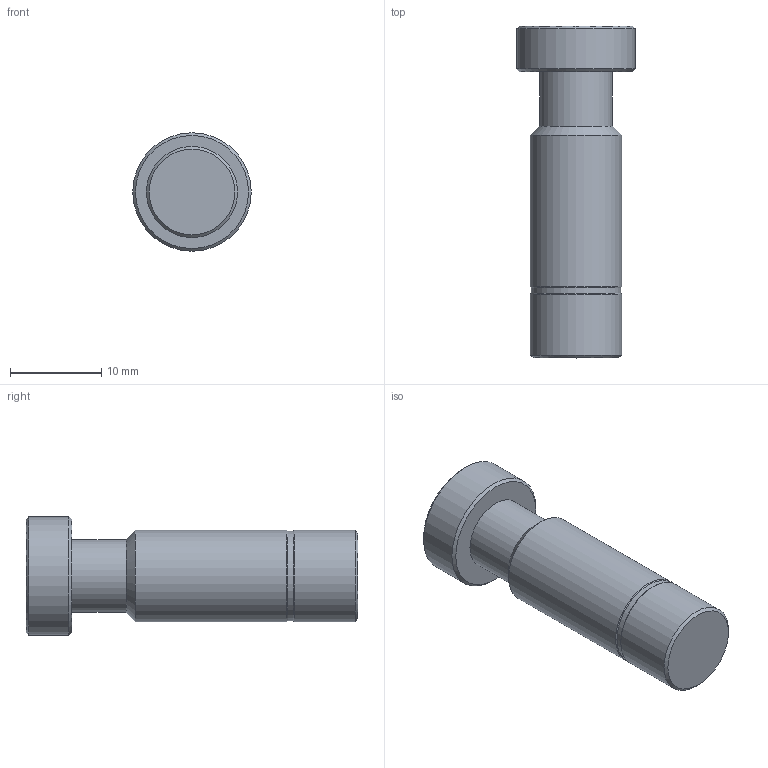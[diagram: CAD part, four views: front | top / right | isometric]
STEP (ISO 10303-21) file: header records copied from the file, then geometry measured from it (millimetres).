
FILE_DESCRIPTION(/* description */ (''),/* implementation_level */ '2;1');
FILE_NAME(/* name */ 'LXH55 1010 00.stp',/* time_stamp */ '2026-04-19T15:31:26+02:00',/* author */ ('freju'),/* organization */ (''),/* preprocessor_version */ 'ST-DEVELOPER v20.1',/* originating_system */ 'Autodesk Inventor 2026',/* authorisation */ '');
FILE_SCHEMA (('AUTOMOTIVE_DESIGN { 1 0 10303 214 3 1 1 }'));
Length unit declared in the file: millimetre
Products named in the file (1): LXH55 1010 00
Bounding box: 13 x 36.4 x 13 mm (x, y, z)
Volume: 2938.1 mm3; surface area: 1438.1 mm2
Topology: 1 solids, 1 shells, 14 faces, 31 edges, 20 vertices
Faces by surface type: cylinder 5, cone 4, plane 3, torus 2
Full cylindrical faces by diameter (mm): 8 x1, 9.8 x1, 10 x2, 13 x1
Entity records: 444 total; most frequent: DIRECTION 83, CARTESIAN_POINT 66, ORIENTED_EDGE 62, AXIS2_PLACEMENT_3D 37, EDGE_CURVE 31, CIRCLE 22, VERTEX_POINT 20, EDGE_LOOP 15
